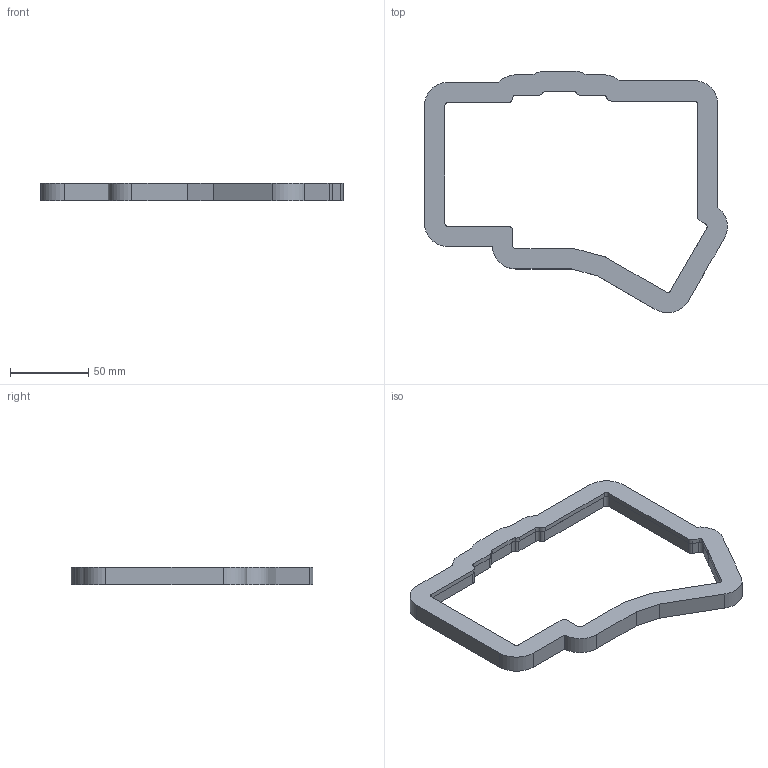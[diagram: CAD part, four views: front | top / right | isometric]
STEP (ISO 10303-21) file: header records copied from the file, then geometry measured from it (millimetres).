
FILE_DESCRIPTION(('Open CASCADE Model'),'2;1');
FILE_NAME('Open CASCADE Shape Model','2026-09-20T05:10:45',('Author'),( 'Open CASCADE'),'Open CASCADE STEP processor 8.0','Open CASCADE 8.0' ,'Unknown');
FILE_SCHEMA(('AP242_MANAGED_MODEL_BASED_3D_ENGINEERING_MIM_LF {1 0 10303 442 1 1 4 }' ));
Length unit declared in the file: millimetre
Products named in the file (1): Open CASCADE STEP translator 8.0 40
Bounding box: 193.41 x 154.41 x 11 mm (x, y, z)
Volume: 80050.6 mm3; surface area: 27606.5 mm2
Topology: 1 solids, 1 shells, 99 faces, 288 edges, 192 vertices
Faces by surface type: cylinder 53, plane 46
Entity records: 7219 total; most frequent: CARTESIAN_POINT 1462, DIRECTION 1119, LINE 652, VECTOR 652, ORIENTED_EDGE 576, PCURVE 576, DEFINITIONAL_REPRESENTATION 576, EDGE_CURVE 288
